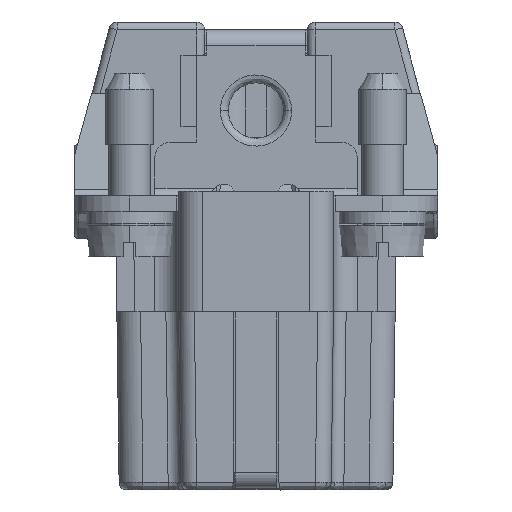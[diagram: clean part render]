
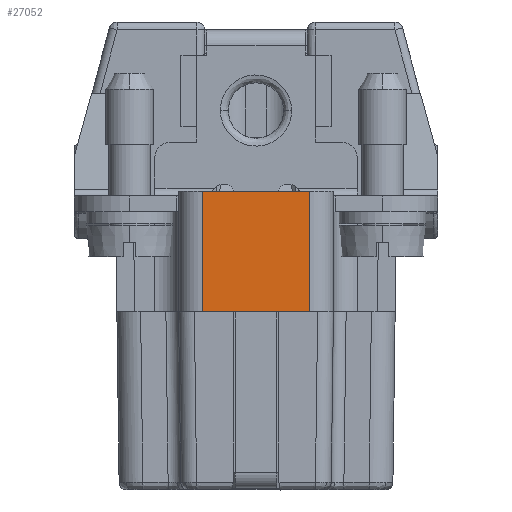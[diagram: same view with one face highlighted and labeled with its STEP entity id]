
A CAD part, left-side view. The second image highlights one B-rep face of the part: STEP entity #27052.
In plain terms, the highlighted planar face has unit normal (-1, 0, 0).
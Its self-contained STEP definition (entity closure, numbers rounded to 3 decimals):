
#25647 = EDGE_LOOP ( 'NONE', ( #26481, #26568, #26576, #26581 ) ) ;
#26481 = ORIENTED_EDGE ( 'NONE', *, *, #26609, .F. ) ;
#26555 = VERTEX_POINT ( 'NONE', #150130 ) ;
#26568 = ORIENTED_EDGE ( 'NONE', *, *, #26977, .T. ) ;
#26576 = ORIENTED_EDGE ( 'NONE', *, *, #170654, .T. ) ;
#26581 = ORIENTED_EDGE ( 'NONE', *, *, #26753, .F. ) ;
#26609 = EDGE_CURVE ( 'NONE', #26899, #26555, #150339, .T. ) ;
#26753 = EDGE_CURVE ( 'NONE', #26555, #170559, #150674, .T. ) ;
#26899 = VERTEX_POINT ( 'NONE', #151162 ) ;
#26977 = EDGE_CURVE ( 'NONE', #26899, #169957, #151305, .T. ) ;
#27052 = ADVANCED_FACE ( 'NONE', ( #151525 ), #151486, .T. ) ;
#131104 = CARTESIAN_POINT ( 'NONE',  ( 27.864, 53.602, 18. ) ) ;
#131251 = CARTESIAN_POINT ( 'NONE',  ( 27.864, 46.802, 18. ) ) ;
#131296 = DIRECTION ( 'NONE',  ( 0., -1., 0. ) ) ;
#131297 = VECTOR ( 'NONE', #131296, 1000. ) ;
#131298 = CARTESIAN_POINT ( 'NONE',  ( 27.864, 33.202, 18. ) ) ;
#131313 = LINE ( 'NONE', #131298, #131297 ) ;
#150130 = CARTESIAN_POINT ( 'NONE',  ( 27.864, 46.802, 25.6 ) ) ;
#150336 = DIRECTION ( 'NONE',  ( 0., -1., 0. ) ) ;
#150337 = VECTOR ( 'NONE', #150336, 1000. ) ;
#150338 = CARTESIAN_POINT ( 'NONE',  ( 27.864, 50.202, 25.6 ) ) ;
#150339 = LINE ( 'NONE', #150338, #150337 ) ;
#150670 = DIRECTION ( 'NONE',  ( 0., 0., -1. ) ) ;
#150671 = VECTOR ( 'NONE', #150670, 1000. ) ;
#150673 = CARTESIAN_POINT ( 'NONE',  ( 27.864, 46.802, 0. ) ) ;
#150674 = LINE ( 'NONE', #150673, #150671 ) ;
#151162 = CARTESIAN_POINT ( 'NONE',  ( 27.864, 53.602, 25.6 ) ) ;
#151305 = LINE ( 'NONE', #151427, #151426 ) ;
#151425 = DIRECTION ( 'NONE',  ( 0., 0., -1. ) ) ;
#151426 = VECTOR ( 'NONE', #151425, 1000. ) ;
#151427 = CARTESIAN_POINT ( 'NONE',  ( 27.864, 53.602, 0. ) ) ;
#151482 = CARTESIAN_POINT ( 'NONE',  ( 27.864, 33.202, 0. ) ) ;
#151483 = AXIS2_PLACEMENT_3D ( 'NONE', #151482, #151601, #151600 ) ;
#151486 = PLANE ( 'NONE',  #151483 ) ;
#151525 = FACE_OUTER_BOUND ( 'NONE', #25647, .T. ) ;
#151600 = DIRECTION ( 'NONE',  ( 0., 0., 1. ) ) ;
#151601 = DIRECTION ( 'NONE',  ( -1., 0., 0. ) ) ;
#169957 = VERTEX_POINT ( 'NONE', #131104 ) ;
#170559 = VERTEX_POINT ( 'NONE', #131251 ) ;
#170654 = EDGE_CURVE ( 'NONE', #169957, #170559, #131313, .T. ) ;
